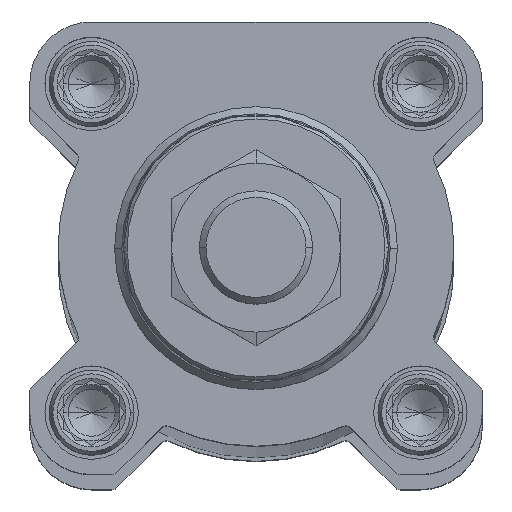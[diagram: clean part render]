
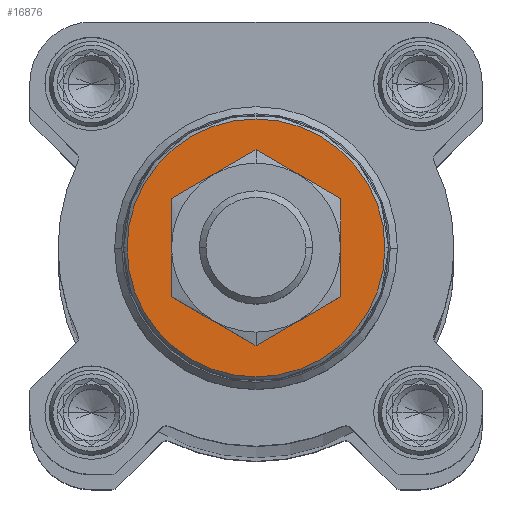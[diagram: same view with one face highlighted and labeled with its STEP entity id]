
A CAD part, top view. The second image highlights one B-rep face of the part: STEP entity #16876.
In plain terms, the highlighted planar face has unit normal (0, 0, 1).
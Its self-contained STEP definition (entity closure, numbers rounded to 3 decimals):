
#643 = VERTEX_POINT ( 'NONE', #6707 ) ;
#844 = DIRECTION ( 'NONE',  ( 0., 0., -1. ) ) ;
#1630 = AXIS2_PLACEMENT_3D ( 'NONE', #14869, #4273, #8486 ) ;
#1688 = CIRCLE ( 'NONE', #13778, 18.242 ) ;
#1836 = EDGE_CURVE ( 'NONE', #11568, #11921, #8143, .T. ) ;
#1865 = EDGE_LOOP ( 'NONE', ( #13830, #11678 ) ) ;
#2224 = DIRECTION ( 'NONE',  ( -1., 0., 0. ) ) ;
#3012 = DIRECTION ( 'NONE',  ( 0., 0., -1. ) ) ;
#3341 = CARTESIAN_POINT ( 'NONE',  ( -18.242, 0., 26.8 ) ) ;
#4075 = EDGE_LOOP ( 'NONE', ( #8178, #13402 ) ) ;
#4134 = EDGE_CURVE ( 'NONE', #15314, #643, #16466, .T. ) ;
#4164 = CARTESIAN_POINT ( 'NONE',  ( 10., 0., 26.8 ) ) ;
#4273 = DIRECTION ( 'NONE',  ( 0., 0., -1. ) ) ;
#4538 = DIRECTION ( 'NONE',  ( 0., 0., -1. ) ) ;
#5196 = AXIS2_PLACEMENT_3D ( 'NONE', #11424, #844, #15287 ) ;
#5984 = CARTESIAN_POINT ( 'NONE',  ( 0., 0., 26.8 ) ) ;
#6707 = CARTESIAN_POINT ( 'NONE',  ( 18.242, 0., 26.8 ) ) ;
#7247 = EDGE_CURVE ( 'NONE', #643, #15314, #1688, .T. ) ;
#8143 = CIRCLE ( 'NONE', #15295, 10. ) ;
#8178 = ORIENTED_EDGE ( 'NONE', *, *, #4134, .F. ) ;
#8260 = DIRECTION ( 'NONE',  ( -1., 0., 0. ) ) ;
#8486 = DIRECTION ( 'NONE',  ( -1., 0., 0. ) ) ;
#8567 = FACE_OUTER_BOUND ( 'NONE', #4075, .T. ) ;
#9955 = DIRECTION ( 'NONE',  ( 0., -1., 0. ) ) ;
#11408 = CARTESIAN_POINT ( 'NONE',  ( 0., 0., 26.8 ) ) ;
#11424 = CARTESIAN_POINT ( 'NONE',  ( 0., 0., 26.8 ) ) ;
#11568 = VERTEX_POINT ( 'NONE', #13490 ) ;
#11678 = ORIENTED_EDGE ( 'NONE', *, *, #16448, .T. ) ;
#11921 = VERTEX_POINT ( 'NONE', #4164 ) ;
#12616 = DIRECTION ( 'NONE',  ( 0., 0., -1. ) ) ;
#13146 = AXIS2_PLACEMENT_3D ( 'NONE', #11408, #12616, #9955 ) ;
#13345 = CARTESIAN_POINT ( 'NONE',  ( 0., 0., 26.8 ) ) ;
#13402 = ORIENTED_EDGE ( 'NONE', *, *, #7247, .F. ) ;
#13490 = CARTESIAN_POINT ( 'NONE',  ( -10., 0., 26.8 ) ) ;
#13778 = AXIS2_PLACEMENT_3D ( 'NONE', #5984, #4538, #2224 ) ;
#13830 = ORIENTED_EDGE ( 'NONE', *, *, #1836, .T. ) ;
#14869 = CARTESIAN_POINT ( 'NONE',  ( 0., 0., 26.8 ) ) ;
#15114 = FACE_BOUND ( 'NONE', #1865, .T. ) ;
#15287 = DIRECTION ( 'NONE',  ( -1., 0., 0. ) ) ;
#15295 = AXIS2_PLACEMENT_3D ( 'NONE', #13345, #3012, #8260 ) ;
#15314 = VERTEX_POINT ( 'NONE', #3341 ) ;
#16197 = CIRCLE ( 'NONE', #5196, 10. ) ;
#16313 = PLANE ( 'NONE',  #13146 ) ;
#16448 = EDGE_CURVE ( 'NONE', #11921, #11568, #16197, .T. ) ;
#16466 = CIRCLE ( 'NONE', #1630, 18.242 ) ;
#16876 = ADVANCED_FACE ( 'NONE', ( #8567, #15114 ), #16313, .F. ) ;
